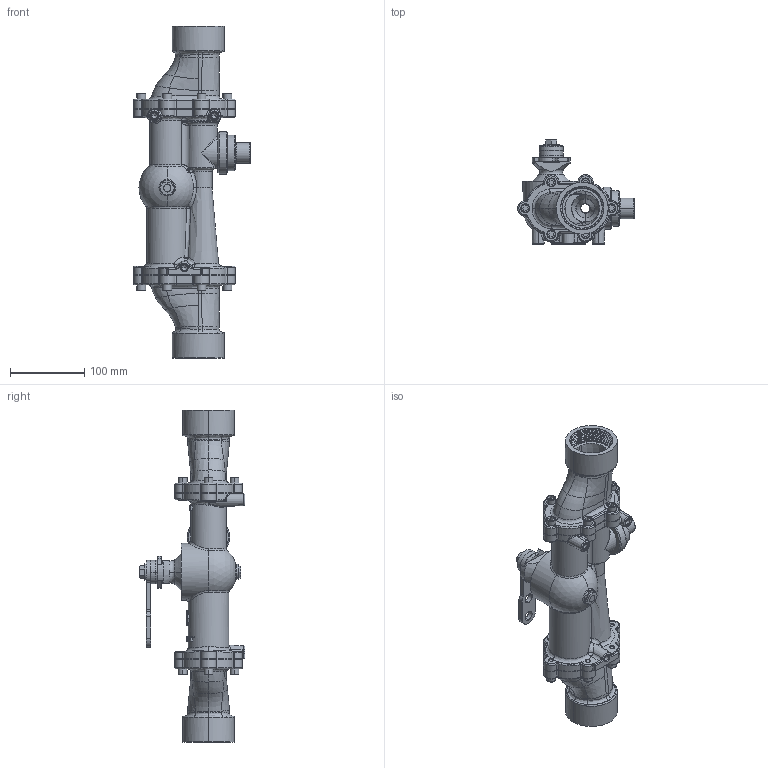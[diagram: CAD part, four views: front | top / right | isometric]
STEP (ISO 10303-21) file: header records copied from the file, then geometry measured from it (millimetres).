
FILE_DESCRIPTION((''),'2;1');
FILE_NAME('D31654','2011-12-21T',('jhabe'),(''),'PRO/ENGINEER BY PARAMETRIC TECHNOLOGY CORPORATION, 2011310','PRO/ENGINEER BY PARAMETRIC TECHNOLOGY CORPORATION, 2011310','');
FILE_SCHEMA(('CONFIG_CONTROL_DESIGN'));
Products named in the file (1): D31654
Bounding box: 157.14 x 142.16 x 447.24 mm (x, y, z)
Surface area: 345844 mm2 (no closed solid volume)
Topology: 0 solids, 59 shells, 1449 faces, 4022 edges, 2614 vertices
Faces by surface type: plane 382, cylinder 379, bspline 333, cone 158, torus 115, extrusion 45, sphere 37
Entity records: 72001 total; most frequent: CARTESIAN_POINT 38199, ORIENTED_EDGE 7170, DIRECTION 6197, EDGE_CURVE 4008, VERTEX_POINT 2614, AXIS2_PLACEMENT_3D 2389, EDGE_LOOP 1580, FACE_OUTER_BOUND 1449
